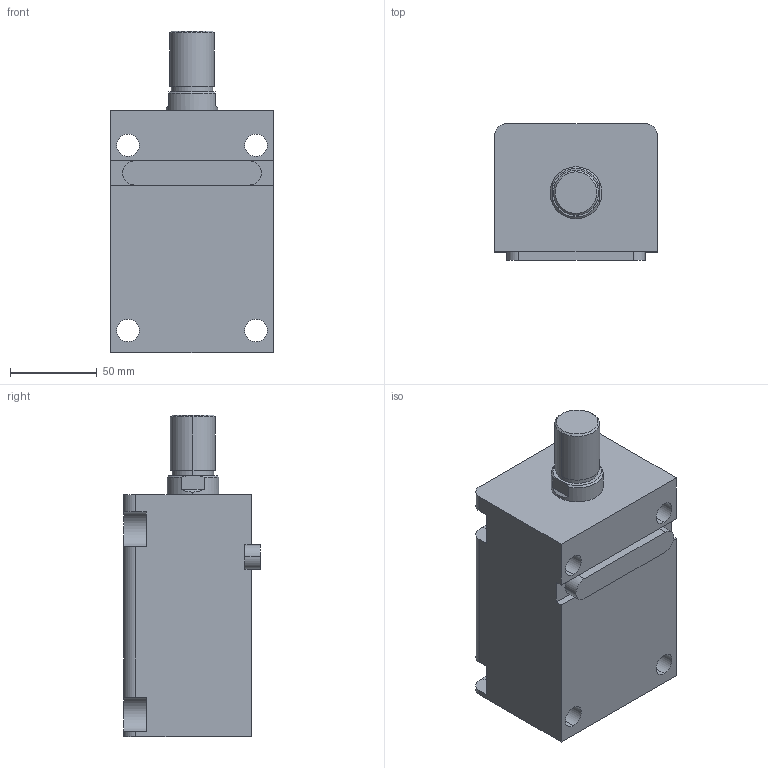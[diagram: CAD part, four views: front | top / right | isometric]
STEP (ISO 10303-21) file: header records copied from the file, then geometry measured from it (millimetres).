
FILE_DESCRIPTION (( 'STEP AP203' ), '1' );
FILE_NAME ('HTB-LA50-80W.STEP', '2019-10-09T07:12:56', ( '微软用户' ), ( '微软中国' ), 'SwSTEP 2.0', 'SolidWorks 2012', '' );
FILE_SCHEMA (( 'CONFIG_CONTROL_DESIGN' ));
Length unit declared in the file: millimetre
Products named in the file (4): HTB-LA50-80W; HTB-LA50-80W活塞杆; HTB-LA50-80掛极; HTB-LA50-瑩
Assembly tree (3 placements, depth 2):
  HTB-LA50-80W
    HTB-LA50-80掛极
    HTB-LA50-80W活塞杆
    HTB-LA50-瑩
Bounding box: 94 x 79 x 186 mm (x, y, z)
Volume: 847881.8 mm3; surface area: 118340.2 mm2
Topology: 3 solids, 3 shells, 90 faces, 219 edges, 144 vertices
Faces by surface type: plane 41, cylinder 37, cone 8, torus 4
Entity records: 3107 total; most frequent: DIRECTION 497, CARTESIAN_POINT 487, ORIENTED_EDGE 438, EDGE_CURVE 219, AXIS2_PLACEMENT_3D 190, VERTEX_POINT 144, VECTOR 117, LINE 117
